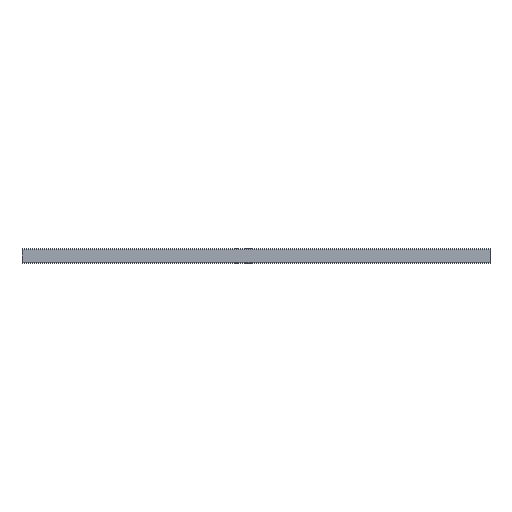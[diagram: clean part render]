
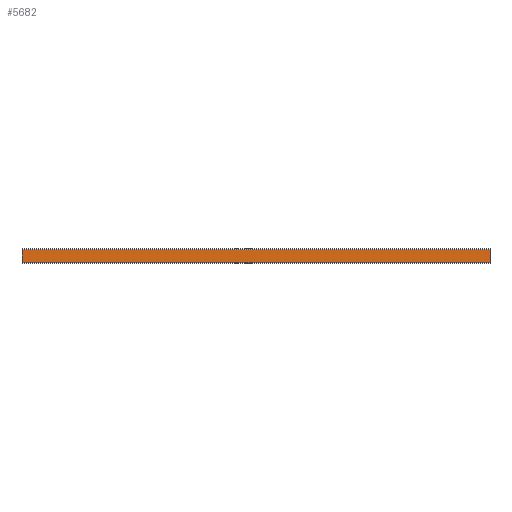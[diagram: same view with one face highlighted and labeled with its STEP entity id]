
A CAD part, front view. The second image highlights one B-rep face of the part: STEP entity #5682.
In plain terms, the highlighted planar face has unit normal (0, -1, 0).
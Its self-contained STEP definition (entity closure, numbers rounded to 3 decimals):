
#123 = VECTOR ( 'NONE', #496, 1000. ) ;
#256 = DIRECTION ( 'NONE',  ( -1., 0., 0. ) ) ;
#496 = DIRECTION ( 'NONE',  ( 0., 0., -1. ) ) ;
#601 = EDGE_LOOP ( 'NONE', ( #6130, #4908, #6603, #4585 ) ) ;
#714 = DIRECTION ( 'NONE',  ( 0., 0., 1. ) ) ;
#1203 = DIRECTION ( 'NONE',  ( 0., 1., 0. ) ) ;
#1314 = CARTESIAN_POINT ( 'NONE',  ( 1000., -15., -13. ) ) ;
#1367 = LINE ( 'NONE', #3249, #2622 ) ;
#1586 = CARTESIAN_POINT ( 'NONE',  ( 0., -15., -13. ) ) ;
#1687 = CARTESIAN_POINT ( 'NONE',  ( 1000., -15., -13. ) ) ;
#1692 = VERTEX_POINT ( 'NONE', #1314 ) ;
#1858 = CARTESIAN_POINT ( 'NONE',  ( 0., -15., 13. ) ) ;
#1918 = EDGE_CURVE ( 'NONE', #2332, #2073, #2872, .T. ) ;
#2073 = VERTEX_POINT ( 'NONE', #1858 ) ;
#2332 = VERTEX_POINT ( 'NONE', #2594 ) ;
#2594 = CARTESIAN_POINT ( 'NONE',  ( 1000., -15., 13. ) ) ;
#2622 = VECTOR ( 'NONE', #2834, 1000. ) ;
#2759 = VECTOR ( 'NONE', #4875, 1000. ) ;
#2822 = PLANE ( 'NONE',  #6821 ) ;
#2834 = DIRECTION ( 'NONE',  ( 0., 0., -1. ) ) ;
#2872 = LINE ( 'NONE', #5491, #4089 ) ;
#2939 = VERTEX_POINT ( 'NONE', #1586 ) ;
#2988 = LINE ( 'NONE', #3192, #123 ) ;
#3192 = CARTESIAN_POINT ( 'NONE',  ( 0., -15., 13. ) ) ;
#3249 = CARTESIAN_POINT ( 'NONE',  ( 1000., -15., 13. ) ) ;
#3356 = CARTESIAN_POINT ( 'NONE',  ( 1000., -15., 13. ) ) ;
#3806 = FACE_OUTER_BOUND ( 'NONE', #601, .T. ) ;
#4089 = VECTOR ( 'NONE', #256, 1000. ) ;
#4254 = EDGE_CURVE ( 'NONE', #2332, #1692, #1367, .T. ) ;
#4446 = EDGE_CURVE ( 'NONE', #2073, #2939, #2988, .T. ) ;
#4585 = ORIENTED_EDGE ( 'NONE', *, *, #1918, .T. ) ;
#4875 = DIRECTION ( 'NONE',  ( -1., 0., 0. ) ) ;
#4908 = ORIENTED_EDGE ( 'NONE', *, *, #5169, .F. ) ;
#5169 = EDGE_CURVE ( 'NONE', #1692, #2939, #5574, .T. ) ;
#5491 = CARTESIAN_POINT ( 'NONE',  ( 1000., -15., 13. ) ) ;
#5574 = LINE ( 'NONE', #1687, #2759 ) ;
#5682 = ADVANCED_FACE ( 'NONE', ( #3806 ), #2822, .F. ) ;
#6130 = ORIENTED_EDGE ( 'NONE', *, *, #4446, .T. ) ;
#6603 = ORIENTED_EDGE ( 'NONE', *, *, #4254, .F. ) ;
#6821 = AXIS2_PLACEMENT_3D ( 'NONE', #3356, #1203, #714 ) ;
